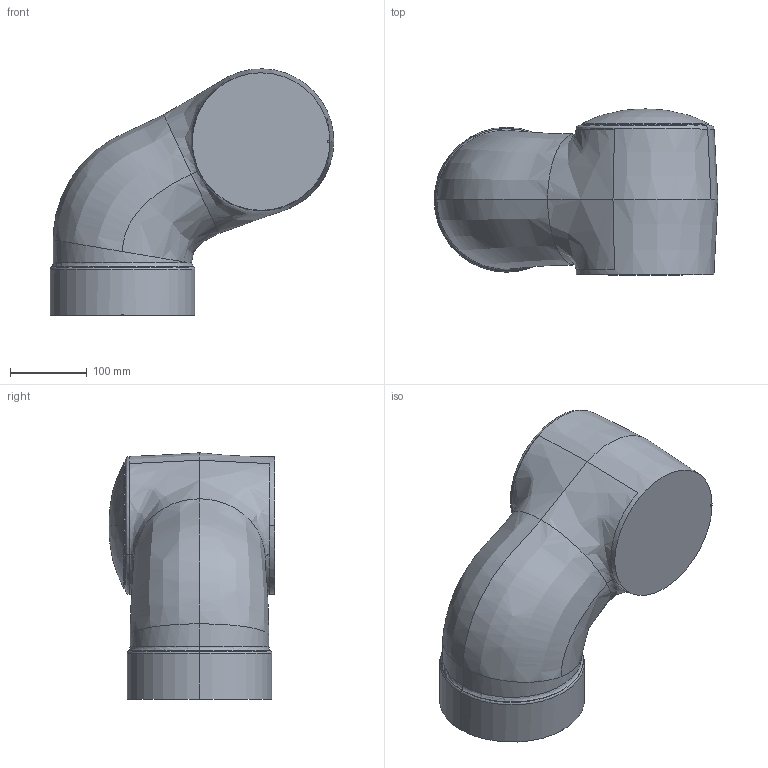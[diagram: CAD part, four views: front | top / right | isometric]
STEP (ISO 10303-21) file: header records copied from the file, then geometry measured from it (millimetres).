
FILE_DESCRIPTION (( 'STEP AP214' ), '1' );
FILE_NAME ('CRB1920_30kg-1350_OmniCore_rev00_Link1.step', '2026-03-06T03:43:03', ( '' ), ( '' ), 'SwSTEP 2.0', 'SolidWorks 2022', '' );
FILE_SCHEMA (( 'AUTOMOTIVE_DESIGN' ));
Length unit declared in the file: millimetre
Products named in the file (1): CRB1920_30kg-1350_OmniCore_rev00_Link1
Bounding box: 368.5 x 215.5 x 319.98 mm (x, y, z)
Volume: 11725396 mm3; surface area: 314446.1 mm2
Topology: 1 solids, 1 shells, 48 faces, 116 edges, 70 vertices
Faces by surface type: bspline 12, plane 10, cylinder 9, cone 9, torus 8
Entity records: 20706 total; most frequent: CARTESIAN_POINT 19634, ORIENTED_EDGE 228, DIRECTION 201, EDGE_CURVE 114, AXIS2_PLACEMENT_3D 86, VERTEX_POINT 70, EDGE_LOOP 50, CIRCLE 49
